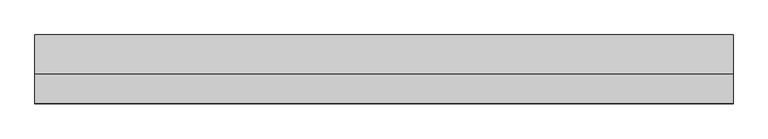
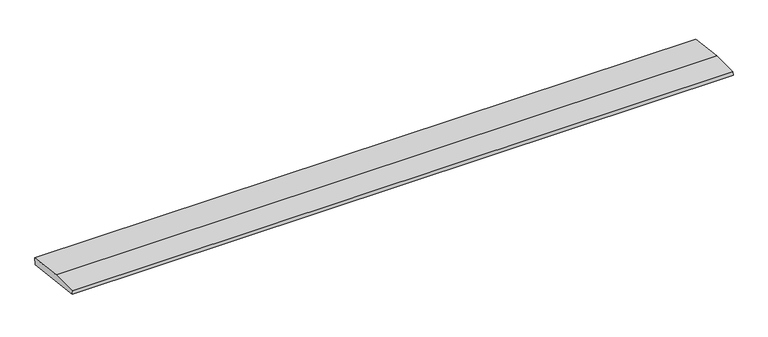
"""IFC4 building model written with IfcOpenShell, lengths in millimetres: beam geometry, weatherboad : weatherboad."""

from ifc_helpers import new_model, si_unit, frame, origin, place, context, project, spatial, polyline, outline, extrude, source, transform, mapped, element, save


def beam_da656821(model_context):
    return source(origin(), model_context, "Body", "SweptSolid", [
        extrude(outline(polyline([(0.0, -9.143159), (1.1226388, 0.0), (79.0749747, 0.0), (180.9387048, -12.5072934), (178.6231873, -31.3656703), (0.0, -9.143159)])), frame((-919.0026911, 0.0, 0.0), z_axis=(1.0, 0.0, 0.0), x_axis=(0.0, 1.0, 0.0)), (0.0, 0.0, 1.0), 1838.0053822),
    ])


if __name__ == "__main__":
    model = new_model("IFC4")
    model_context = context("Model", 3, world=origin())
    ifc_project = project(units=[si_unit("LENGTHUNIT", "METRE", prefix="MILLI")], contexts=[model_context])
    site = spatial("IfcSite", under=ifc_project)
    building = spatial("IfcBuilding", under=site)
    placement = place(None, origin())
    beam_shape = beam_da656821(model_context)
    element("IfcBeam", 1, ObjectType="weatherboad : weatherboad", at=placement, inside=building, context=model_context, shape_type="MappedRepresentation", body=[
        mapped(beam_shape, transform((0.0, 0.0, 0.0), x_axis=(1.0, 0.0, 0.0), y_axis=(0.0, 1.0, 0.0), z_axis=(0.0, 0.0, 1.0))),
    ])
    save(model, "model.ifc")
